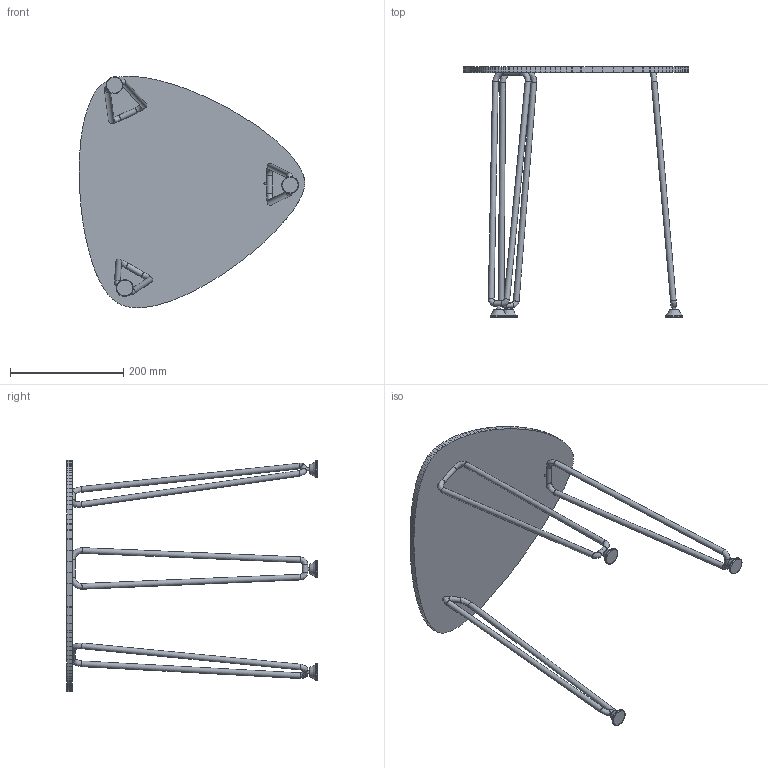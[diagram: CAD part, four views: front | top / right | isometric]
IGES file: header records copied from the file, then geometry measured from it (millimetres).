
Global section: file name: VincentSheppard_RozyTableSmallBlackTop; native system: unknown; preprocessor: unknown; author: ict@vincentsheppard.com; organization: unknown; date: 20180518.085926; units: millimetre
Bounding box: 399.03 x 443.08 x 409.17 mm (x, y, z)
Volume: 1405553.5 mm3; surface area: 338532 mm2
Topology: 7 solids, 7 shells, 330 faces, 960 edges, 644 vertices
Faces by surface type: bspline 330
